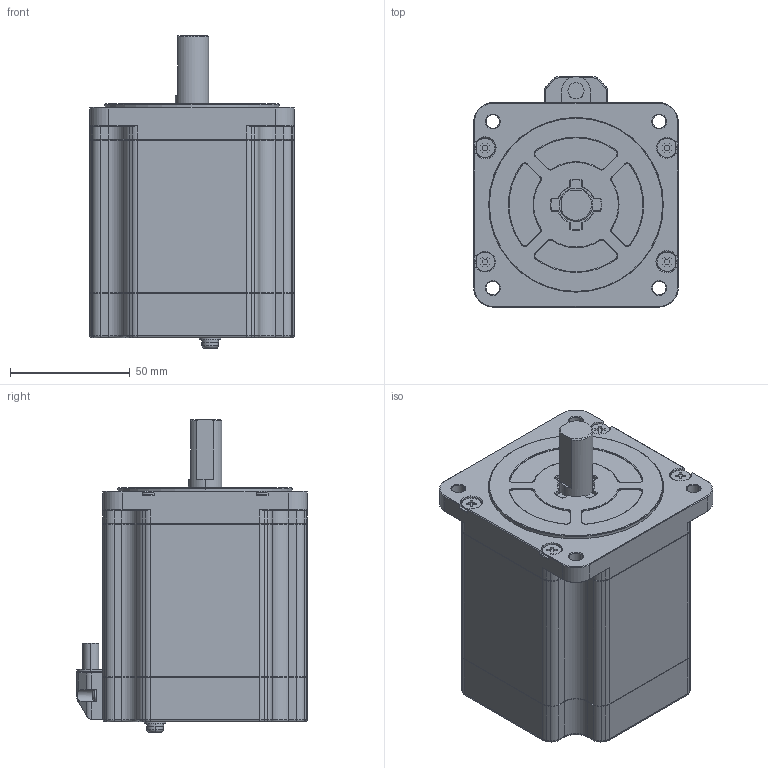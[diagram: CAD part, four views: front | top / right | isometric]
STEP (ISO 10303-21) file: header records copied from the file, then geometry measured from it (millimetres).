
FILE_DESCRIPTION (( 'STEP AP203' ), '1' );
FILE_NAME ('SM2862-5051.STEP', '2012-06-27T12:17:49', ( 'sanyodenki-admin' ), ( '' ), 'SwSTEP 2.0', 'SolidWorks 2011', '' );
FILE_SCHEMA (( 'CONFIG_CONTROL_DESIGN' ));
Length unit declared in the file: millimetre
Products named in the file (1): SM2862-5051
Bounding box: 85.5 x 96.5 x 130.85 mm (x, y, z)
Volume: 640703.8 mm3; surface area: 48491.8 mm2
Topology: 1 solids, 1 shells, 775 faces, 1953 edges, 1201 vertices
Faces by surface type: plane 291, cylinder 272, cone 146, torus 66
Entity records: 23285 total; most frequent: DIRECTION 4276, CARTESIAN_POINT 4076, ORIENTED_EDGE 3906, EDGE_CURVE 1953, AXIS2_PLACEMENT_3D 1581, VERTEX_POINT 1201, VECTOR 1114, LINE 1114
